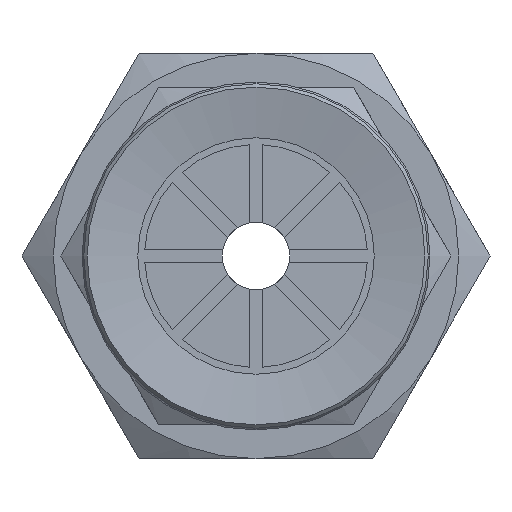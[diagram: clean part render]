
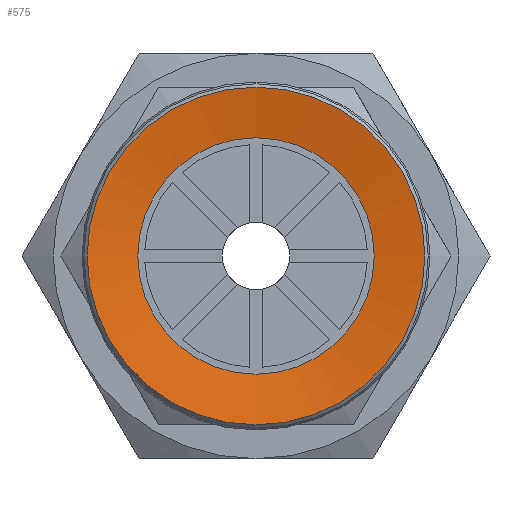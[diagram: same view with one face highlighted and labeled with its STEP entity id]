
A CAD part, front view. The second image highlights one B-rep face of the part: STEP entity #575.
In plain terms, the highlighted conical face has half-angle 80 degrees and reference radius 5 mm.
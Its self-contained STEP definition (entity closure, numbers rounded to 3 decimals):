
#575=ADVANCED_FACE('',(#889,#890),#891,.F.);
#889=FACE_BOUND('',#1238,.T.);
#890=FACE_OUTER_BOUND('',#1239,.T.);
#891=CONICAL_SURFACE('',#1240,5.0,1.396);
#1238=EDGE_LOOP('',(#2128));
#1239=EDGE_LOOP('',(#2129));
#1240=AXIS2_PLACEMENT_3D('',#2130,#2131,#2132);
#2128=ORIENTED_EDGE('',*,*,#2499,.T.);
#2129=ORIENTED_EDGE('',*,*,#2477,.F.);
#2130=CARTESIAN_POINT('',(0.0,0.,0.));
#2131=DIRECTION('',(0.0,0.,-1.0));
#2132=DIRECTION('',(0.0,1.0,0.));
#2477=EDGE_CURVE('',#2907,#2907,#2908,.T.);
#2499=EDGE_CURVE('',#2937,#2937,#2938,.T.);
#2907=VERTEX_POINT('',#3727);
#2908=CIRCLE('',#3728,5.0);
#2937=VERTEX_POINT('',#3771);
#2938=CIRCLE('',#3772,3.5);
#3727=CARTESIAN_POINT('',(0.0,-5.0,0.));
#3728=AXIS2_PLACEMENT_3D('',#4214,#4215,#4216);
#3771=CARTESIAN_POINT('',(0.0,-3.5,0.264));
#3772=AXIS2_PLACEMENT_3D('',#4252,#4253,#4254);
#4214=CARTESIAN_POINT('',(0.0,0.,0.));
#4215=DIRECTION('',(0.0,0.,1.0));
#4216=DIRECTION('',(0.0,-1.0,0.));
#4252=CARTESIAN_POINT('',(0.0,0.,0.264));
#4253=DIRECTION('',(0.0,0.,1.0));
#4254=DIRECTION('',(0.0,-1.0,0.));
